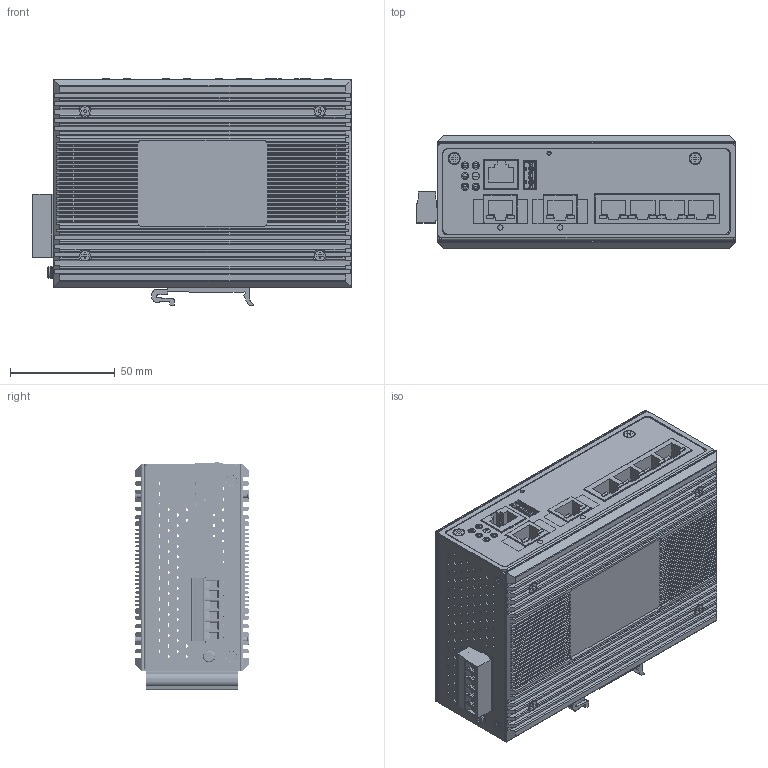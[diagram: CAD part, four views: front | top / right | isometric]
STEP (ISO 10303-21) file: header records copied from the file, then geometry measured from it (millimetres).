
FILE_DESCRIPTION((''),'2;1');
FILE_NAME('PG5-0602_ASM','2019-05-07T',('ASUS'),(''),'PRO/ENGINEER BY PARAMETRIC TECHNOLOGY CORPORATION, 2009440','PRO/ENGINEER BY PARAMETRIC TECHNOLOGY CORPORATION, 2009440','');
FILE_SCHEMA(('CONFIG_CONTROL_DESIGN'));
Products named in the file (43): PG5-0602_BOTTOM-CASE; BSO-M3-6_5L; PG2-1204-10G-SFP_BOTTOM-CASE_BK; SCREW_M3X4_F; PG5-0602_BOTTOM-CASE_ASM; EMSTBA_2_5-6-G-168220; EMSTBA_2_5-6-G-173270_ASM; 1899883_01_ASM; RELAY_HFD3; 1264111122102_RJ45; 11264114022201_RJ45_1X4; LED_GREEN_SMD; SWITCH_PCB_PG5-602_ASM; 3PCS_LED_ANY; 6100V80000_ANY; _T_W___TSC_-3B___W___ANY; ___L_TST-3B__BENDING_ANY; ___Y_TSB_-3B__WITH_PILOT___FIX_; ___L___Y_TSB_-3B__BENDING_ANY_ASM; _____MTSP-3B___W___ANY; ________W___ANY; 1188E_ANY_ASM; RJ45-CONSOLE; POWER_PCB_PG5-0602_ASM; 17010100224101_TOP-CASE_6PIN_H; 17010142099011_BOTTOM_FIN_L; 17010142099001_TOP_FIN_L; DIN_RAIL_44; PG5-0602_HEATSINK; THERMAL-PAD_40X10X3; THERMAL-PAD_22X22X6_5; THERMAL-PAD_22X12X2; THERMAL-PAD_12X12X2; THERMAL-PAD_18X13_5X6_5; THERMAL-PAD_15X8X2; PG5-0602_THERMAL-PAD_TOOLS_UP; PG5-0602_THERMAL-PAD_TOOLS_DOWN; THERMAL-PAD_20X14X6_5; PG5-0602_HEATSINK_ASM; MSTB_2_5-6-ST-129030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
Assembly tree (66 placements, depth 5):
  PG5-0602_ASM
    PG5-0602_BOTTOM-CASE_ASM
      PG5-0602_BOTTOM-CASE
      BSO-M3-6_5L  x4
      PG2-1204-10G-SFP_BOTTOM-CASE_BK
      SCREW_M3X4_F  x2
    SWITCH_PCB_PG5-602_ASM
      1899883_01_ASM
        EMSTBA_2_5-6-G-173270_ASM
          EMSTBA_2_5-6-G-168220
      RELAY_HFD3
      1264111122102_RJ45  x2
      11264114022201_RJ45_1X4
      LED_GREEN_SMD  x2
    POWER_PCB_PG5-0602_ASM
      3PCS_LED_ANY  x2
      6100V80000_ANY
      1188E_ANY_ASM
        _T_W___TSC_-3B___W___ANY
        ___L___Y_TSB_-3B__BENDING_ANY_ASM
          ___L_TST-3B__BENDING_ANY
          ___Y_TSB_-3B__WITH_PILOT___FIX_
        _____MTSP-3B___W___ANY
        ________W___ANY
      RJ45-CONSOLE
    17010100224101_TOP-CASE_6PIN_H
    17010142099011_BOTTOM_FIN_L
    17010142099001_TOP_FIN_L
    DIN_RAIL_44
    PG5-0602_HEATSINK_ASM
      PG5-0602_HEATSINK
      THERMAL-PAD_40X10X3
      THERMAL-PAD_22X22X6_5  x2
      THERMAL-PAD_22X12X2
      THERMAL-PAD_12X12X2
      THERMAL-PAD_18X13_5X6_5
      THERMAL-PAD_15X8X2
      PG5-0602_THERMAL-PAD_TOOLS_UP
      PG5-0602_THERMAL-PAD_TOOLS_DOWN
      THERMAL-PAD_20X14X6_5
    MSTB_2_5-6-ST-129030
    MYLAR_PT5-0600
    SCREW_M3X4_F  x16
    M3_SCREW_FOR_GRN_1604_ANY
Bounding box: 152 x 54 x 108.37 mm (x, y, z)
Volume: 231789.1 mm3; surface area: 267291.3 mm2
Topology: 58 solids, 60 shells, 4784 faces, 12804 edges, 8220 vertices
Faces by surface type: plane 2575, cylinder 1853, cone 168, torus 124, sphere 52, bspline 12
Entity records: 136786 total; most frequent: CARTESIAN_POINT 29324, ORIENTED_EDGE 22256, DIRECTION 22167, EDGE_CURVE 11128, AXIS2_PLACEMENT_3D 7474, VECTOR 7219, LINE 7219, VERTEX_POINT 7178
